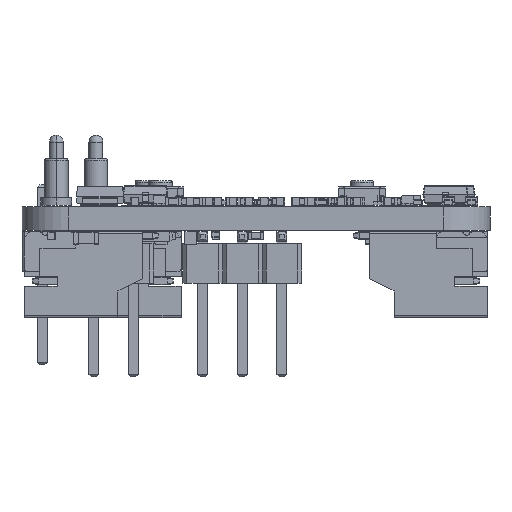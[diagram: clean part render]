
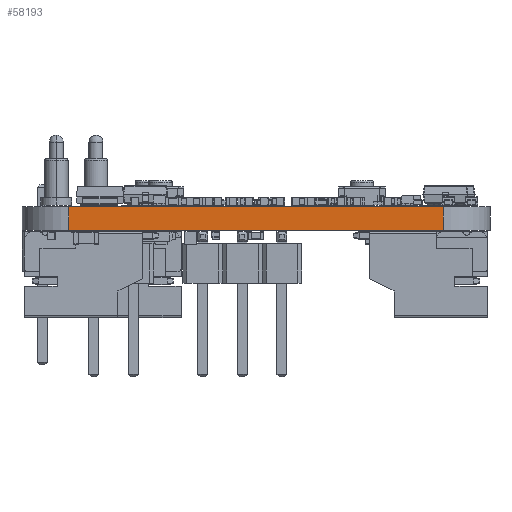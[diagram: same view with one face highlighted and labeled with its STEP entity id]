
A CAD part, left-side view. The second image highlights one B-rep face of the part: STEP entity #58193.
In plain terms, the highlighted planar face has unit normal (-1, 0, 0).
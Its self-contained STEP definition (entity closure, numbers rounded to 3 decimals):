
#56940 = VERTEX_POINT('',#56941);
#56941 = CARTESIAN_POINT('',(-32.55,12.,0.));
#56948 = EDGE_CURVE('',#56949,#56940,#56951,.T.);
#56949 = VERTEX_POINT('',#56950);
#56950 = CARTESIAN_POINT('',(-32.55,-12.,0.));
#56951 = LINE('',#56952,#56953);
#56952 = CARTESIAN_POINT('',(-32.55,-12.,0.));
#56953 = VECTOR('',#56954,1.);
#56954 = DIRECTION('',(0.,1.,0.));
#57553 = VERTEX_POINT('',#57554);
#57554 = CARTESIAN_POINT('',(-32.55,12.,1.516));
#57561 = EDGE_CURVE('',#57562,#57553,#57564,.T.);
#57562 = VERTEX_POINT('',#57563);
#57563 = CARTESIAN_POINT('',(-32.55,-12.,1.516));
#57564 = LINE('',#57565,#57566);
#57565 = CARTESIAN_POINT('',(-32.55,-12.,1.516));
#57566 = VECTOR('',#57567,1.);
#57567 = DIRECTION('',(0.,1.,0.));
#58163 = EDGE_CURVE('',#56940,#57553,#58164,.T.);
#58164 = LINE('',#58165,#58166);
#58165 = CARTESIAN_POINT('',(-32.55,12.,0.));
#58166 = VECTOR('',#58167,1.);
#58167 = DIRECTION('',(0.,0.,1.));
#58193 = ADVANCED_FACE('',(#58194),#58205,.T.);
#58194 = FACE_BOUND('',#58195,.T.);
#58195 = EDGE_LOOP('',(#58196,#58202,#58203,#58204));
#58196 = ORIENTED_EDGE('',*,*,#58197,.T.);
#58197 = EDGE_CURVE('',#56949,#57562,#58198,.T.);
#58198 = LINE('',#58199,#58200);
#58199 = CARTESIAN_POINT('',(-32.55,-12.,0.));
#58200 = VECTOR('',#58201,1.);
#58201 = DIRECTION('',(0.,0.,1.));
#58202 = ORIENTED_EDGE('',*,*,#57561,.T.);
#58203 = ORIENTED_EDGE('',*,*,#58163,.F.);
#58204 = ORIENTED_EDGE('',*,*,#56948,.F.);
#58205 = PLANE('',#58206);
#58206 = AXIS2_PLACEMENT_3D('',#58207,#58208,#58209);
#58207 = CARTESIAN_POINT('',(-32.55,-12.,0.));
#58208 = DIRECTION('',(-1.,0.,0.));
#58209 = DIRECTION('',(0.,1.,0.));
